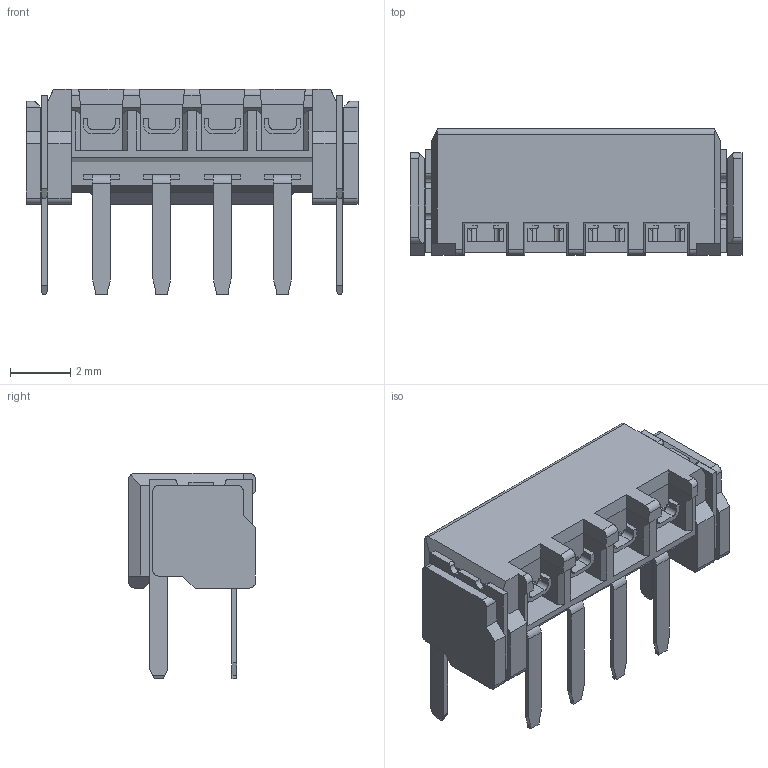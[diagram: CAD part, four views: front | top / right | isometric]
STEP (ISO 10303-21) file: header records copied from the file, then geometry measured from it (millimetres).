
FILE_DESCRIPTION (( 'STEP AP214' ), '1' );
FILE_NAME ('008042004200.STEP', '2016-01-21T00:36:16', ( '' ), ( '' ), 'SwSTEP 2.0', 'SolidWorks 2014', '' );
FILE_SCHEMA (( 'AUTOMOTIVE_DESIGN' ));
Length unit declared in the file: millimetre
Products named in the file (1): 008042004200
Bounding box: 11 x 4.2 x 6.8 mm (x, y, z)
Volume: 125.6 mm3; surface area: 322.7 mm2
Topology: 1 solids, 1 shells, 540 faces, 1515 edges, 982 vertices
Faces by surface type: plane 454, cylinder 86
Entity records: 17113 total; most frequent: CARTESIAN_POINT 3116, ORIENTED_EDGE 3030, DIRECTION 2719, EDGE_CURVE 1515, LINE 1341, VECTOR 1341, VERTEX_POINT 982, AXIS2_PLACEMENT_3D 689
